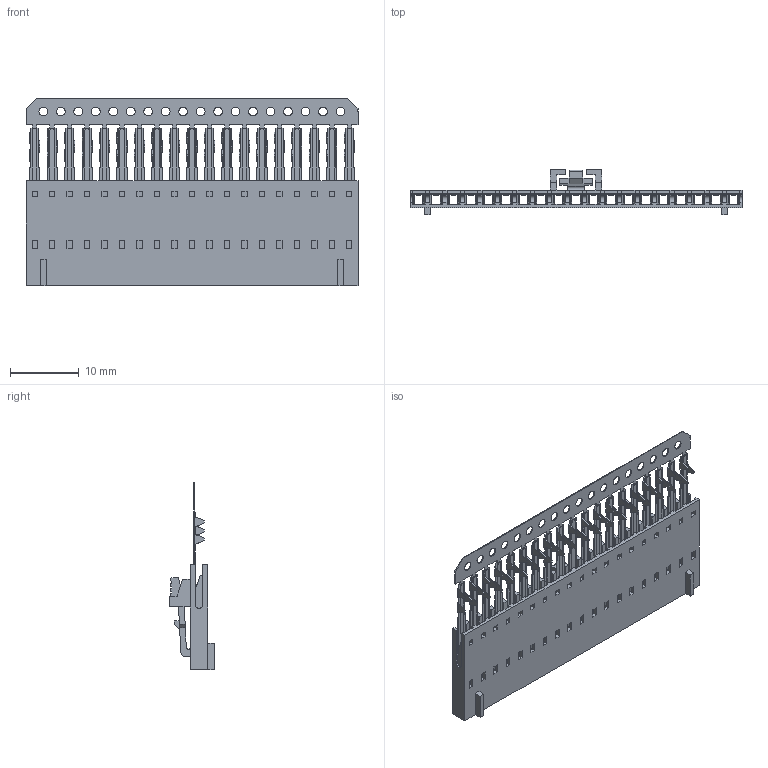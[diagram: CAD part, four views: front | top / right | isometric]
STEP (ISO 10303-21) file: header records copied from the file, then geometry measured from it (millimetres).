
FILE_DESCRIPTION((''),'2;1');
FILE_NAME('015388190','2016-11-30T',('rlalsangi'),(''),'PRO/ENGINEER BY PARAMETRIC TECHNOLOGY CORPORATION, 2012310','PRO/ENGINEER BY PARAMETRIC TECHNOLOGY CORPORATION, 2012310','');
FILE_SCHEMA(('CONFIG_CONTROL_DESIGN'));
Length unit declared in the file: inch
Products named in the file (1): 015388190
Bounding box: 48.23 x 6.58 x 27.18 mm (x, y, z)
Volume: 1157.4 mm3; surface area: 5258.6 mm2
Topology: 1 solids, 1 shells, 1489 faces, 4424 edges, 2885 vertices
Faces by surface type: plane 1308, cylinder 181
Entity records: 49363 total; most frequent: CARTESIAN_POINT 8897, ORIENTED_EDGE 8806, DIRECTION 7692, EDGE_CURVE 4403, VECTOR 4062, LINE 4062, VERTEX_POINT 2846, AXIS2_PLACEMENT_3D 1815
